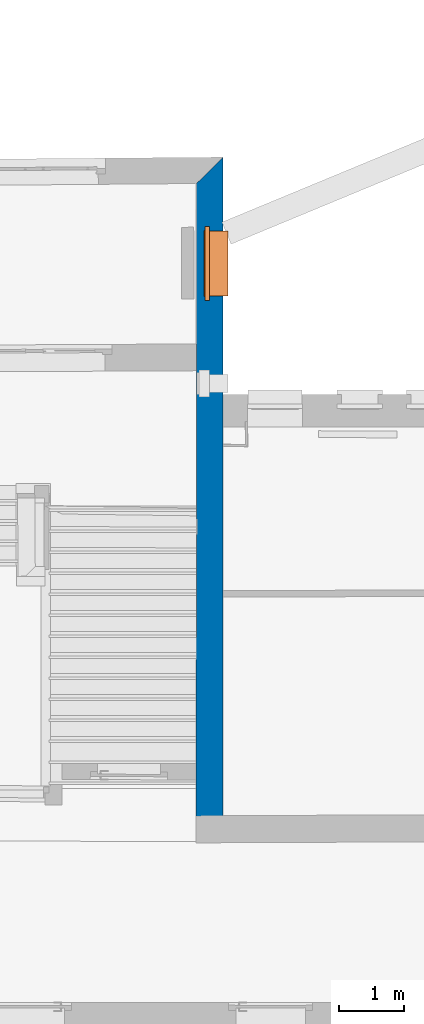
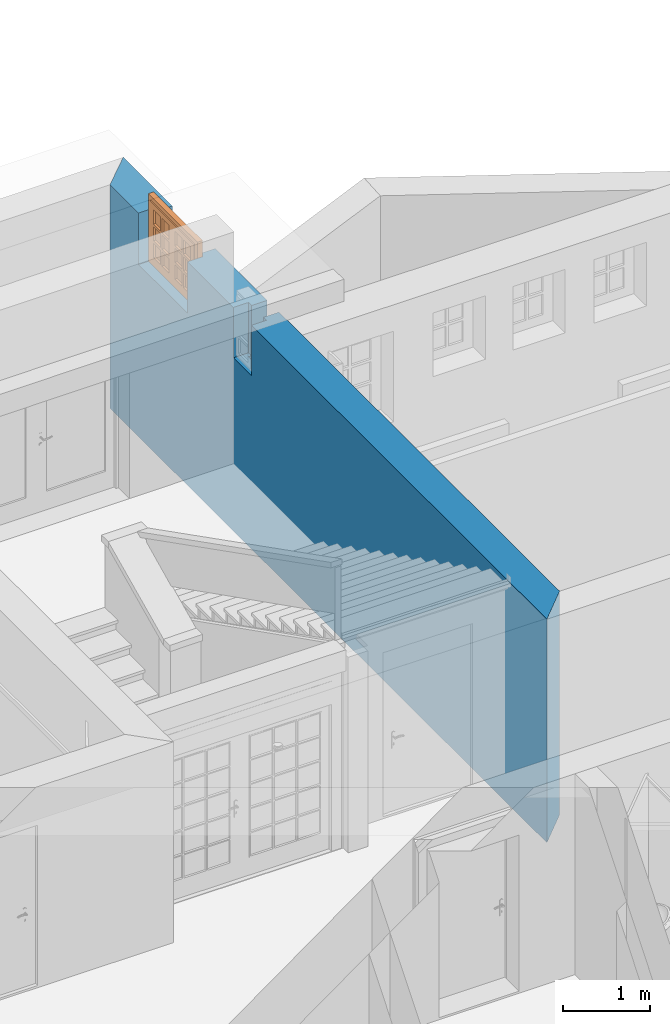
# One storey, part 40 of 196: 1 proxy, 1 wall, 2 openings.
"""IFC2X3 building model written with IfcOpenShell, lengths in metres."""

from ifc_helpers import new_model, entity, si_unit, converted_unit, derived_unit, money_unit, direction, frame, origin_with_axes, origin_2d_with_axis, place, context, subcontext, project, spatial, polyline, rectangle, outline, extrude, faceted_brep, source, transform, mapped, material, layer, layer_set, layer_usage, type_object, element, fill, save


model = new_model("IFC2X3")

# Units and contexts
model_context = context("Model", 3, precision=1e-05, world=origin_with_axes(), true_north=direction((0.0, 1.0)))
body_context = subcontext(model_context, "Body", "Model", "MODEL_VIEW")
ifc_project = project(units=[si_unit("LENGTHUNIT", "METRE"), si_unit("AREAUNIT", "SQUARE_METRE"), si_unit("VOLUMEUNIT", "CUBIC_METRE"), converted_unit("PLANEANGLEUNIT", "DEGREE", entity("IfcPlaneAngleMeasure", 0.0174532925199), si_unit("PLANEANGLEUNIT", "RADIAN"), dimensions=[0, 0, 0, 0, 0, 0, 0]), money_unit("EUR"), converted_unit("TIMEUNIT", "Year", entity("IfcTimeMeasure", 31556926.0), si_unit("TIMEUNIT", "SECOND"), dimensions=[0, 0, 1, 0, 0, 0, 0]), si_unit("MASSUNIT", "GRAM", prefix="KILO"), si_unit("THERMODYNAMICTEMPERATUREUNIT", "DEGREE_CELSIUS"), si_unit("LUMINOUSINTENSITYUNIT", "LUMEN"), si_unit("ENERGYUNIT", "JOULE", prefix="MEGA"), derived_unit("THERMALCONDUCTANCEUNIT", [(si_unit("POWERUNIT", "WATT"), 1), (si_unit("LENGTHUNIT", "METRE"), -1), (si_unit("THERMODYNAMICTEMPERATUREUNIT", "KELVIN"), -1)]), derived_unit("SPECIFICHEATCAPACITYUNIT", [(si_unit("ENERGYUNIT", "JOULE"), 1), (si_unit("MASSUNIT", "GRAM", prefix="KILO"), -1), (si_unit("THERMODYNAMICTEMPERATUREUNIT", "KELVIN"), -1)]), derived_unit("MASSDENSITYUNIT", [(si_unit("MASSUNIT", "GRAM", prefix="KILO"), 1), (si_unit("VOLUMEUNIT", "CUBIC_METRE"), -1)])], contexts=[model_context])

# Site, building, storey
site_placement = place(None, origin_with_axes())
site = spatial("IfcSite", under=ifc_project, at=site_placement, Name="Gelände", CompositionType="ELEMENT")
building_placement = place(site_placement, origin_with_axes())
building = spatial("IfcBuilding", under=site, at=building_placement, Name="Gebäude", CompositionType="ELEMENT")
storey_placement = place(building_placement, frame((0.0, 0.0, -3.0), z_axis=(0.0, 0.0, 1.0), x_axis=(1.0, 0.0, 0.0)))
storey = spatial("IfcBuildingStorey", under=building, at=storey_placement, Name="KELLERGESCHOSS", CompositionType="ELEMENT", Elevation=-3.0)

# Wall, openings, proxy
ifc_material = material(Name="05_ALLGEMEIN - TRAGENDE BAUTEILE")
ifc_layer = layer(ifc_material, 0.41, ventilated="UNKNOWN")
ifc_layer_set = layer_set([ifc_layer], Name="05_ALLGEMEIN - TRAGENDE BAUTEILE 0.41")
ifc_layer_usage = layer_usage(ifc_layer_set, "AXIS2", "NEGATIVE", 0.41)
wall_type = type_object("IfcWallType", Name="05_ALLGEMEIN - TRAGENDE BAUTEILE 410", PredefinedType="ELEMENTEDWALL")
wall_placement = place(storey_placement, frame((-4.46535115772, 19.2470404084, -0.36), z_axis=(0.0, 0.0, 1.0), x_axis=(0.000440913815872, 0.999999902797, 0.0)))
wall = element("IfcWallStandardCase", 1, at=wall_placement, inside=storey, type_object=wall_type, material=ifc_layer_usage, Name="Wand-038", ObjectType="ELEMENTEDWALL", context=body_context, shape_type="SweptSolid", body=[
    extrude(outline(polyline([(0.414620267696, 0.0), (10.4949545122, 0.0), (10.0912333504, 0.41), (-0.00195577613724, 0.41), (0.414620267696, 0.0)])), origin_with_axes(), (0.0, 0.0, 1.0), 3.15),
])
opening_1_placement = place(wall_placement, frame((8.86652682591, 0.0, 2.42470466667), z_axis=(0.0, 0.0, 1.0), x_axis=(1.0, 0.0, 0.0)))
opening_1 = element("IfcOpeningElement", 2, at=opening_1_placement, cuts=wall, Name="Fenster-015", context=body_context, shape_type="SweptSolid", body=[
    extrude(rectangle(XDim=0.991326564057, YDim=0.884032, at=origin_2d_with_axis()), frame((0.0, 0.208421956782, 0.442016), z_axis=(0.0, 1.0, 0.0), x_axis=(1.0, 0.0, 0.0)), (0.0, 0.0, -1.0), 0.618421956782),
    extrude(rectangle(XDim=1.13132656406, YDim=0.954032, at=origin_2d_with_axis()), frame((0.0, 0.208421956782, 0.477016), z_axis=(0.0, -1.0, 0.0), x_axis=(1.0, 0.0, 0.0)), (0.0, 0.0, -1.0), 0.611578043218),
    extrude(rectangle(XDim=0.991326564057, YDim=0.162128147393, at=origin_2d_with_axis()), frame((0.0, 0.249259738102, -0.0810640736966), z_axis=(0.0, 1.0, 0.0), x_axis=(1.0, 0.0, 0.0)), (0.0, 0.0, -1.0), 0.45083778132),
])
opening_2_placement = place(wall_placement, frame((7.03221792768, 0.0, 2.44235066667), z_axis=(0.0, 0.0, 1.0), x_axis=(1.0, 0.0, 0.0)))
element("IfcOpeningElement", 3, at=opening_2_placement, cuts=wall, Name="Fenster-015", context=body_context, shape_type="SweptSolid", body=[
    extrude(rectangle(XDim=0.274211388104, YDim=0.866964, at=origin_2d_with_axis()), frame((0.0, 0.208421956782, 0.433482), z_axis=(0.0, 1.0, 0.0), x_axis=(1.0, 0.0, 0.0)), (0.0, 0.0, -1.0), 0.618421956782),
    extrude(rectangle(XDim=0.414211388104, YDim=0.936964, at=origin_2d_with_axis()), frame((0.0, 0.208421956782, 0.468482), z_axis=(0.0, -1.0, 0.0), x_axis=(1.0, 0.0, 0.0)), (0.0, 0.0, -1.0), 0.611578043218),
    extrude(rectangle(XDim=0.274211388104, YDim=0.162128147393, at=origin_2d_with_axis()), frame((0.0, 0.249259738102, -0.0810640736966), z_axis=(0.0, 1.0, 0.0), x_axis=(1.0, 0.0, 0.0)), (0.0, 0.0, -1.0), 0.45083778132),
])
building_element_proxy_type = type_object("IfcBuildingElementProxyType", Name="2-Flügelfenster 25", PredefinedType="NOTDEFINED")
shared_shape = source(origin_with_axes(), body_context, "Body", "Brep", [
    faceted_brep([(-0.495663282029, -0.05, 0.0), (-0.495663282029, -0.349259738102, -0.0527675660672), (0.495663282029, -0.349259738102, -0.0527675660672), (0.495663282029, -0.05, 0.0), (-0.495663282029, -0.02916221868, -0.118176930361), (-0.495663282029, -0.328421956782, -0.170944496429), (0.495663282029, -0.328421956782, -0.170944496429), (0.495663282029, -0.02916221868, -0.118176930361)], [[[0, 1, 2, 3]], [[0, 4, 5, 1]], [[1, 5, 6, 2]], [[3, 2, 6, 7]], [[4, 0, 3, 7]], [[5, 4, 7, 6]]]),
    faceted_brep([(-0.565663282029, -0.07, 0.0), (-0.565663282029, 0.0, 0.0), (-0.485663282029, 0.0, 0.08), (-0.485663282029, -0.07, 0.08), (-0.565663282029, -0.07, 0.954032), (-0.565663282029, 0.0, 0.954032), (-0.485663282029, 0.0, 0.874032), (-0.485663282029, -0.07, 0.874032)], [[[0, 1, 2, 3]], [[4, 5, 1, 0]], [[1, 5, 6, 2]], [[3, 2, 6, 7]], [[0, 3, 7, 4]], [[7, 6, 5, 4]]]),
    faceted_brep([(0.565663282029, -0.07, 0.0), (0.565663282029, 0.0, 0.0), (0.565663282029, 0.0, 0.954032), (0.565663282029, -0.07, 0.954032), (0.485663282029, -0.07, 0.08), (0.485663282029, 0.0, 0.08), (0.485663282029, 0.0, 0.874032), (0.485663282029, -0.07, 0.874032)], [[[0, 1, 2, 3]], [[4, 5, 1, 0]], [[1, 5, 6, 2]], [[3, 2, 6, 7]], [[0, 3, 7, 4]], [[7, 6, 5, 4]]]),
    faceted_brep([(-0.565663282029, -0.07, 0.0), (-0.565663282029, 0.0, 0.0), (0.565663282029, 0.0, 0.0), (0.565663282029, -0.07, 0.0), (-0.485663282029, -0.07, 0.08), (-0.485663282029, 0.0, 0.08), (0.0, 0.0, 0.08), (0.485663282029, 0.0, 0.08), (0.485663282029, -0.07, 0.08), (0.0, -0.07, 0.08)], [[[0, 1, 2, 3]], [[4, 5, 1, 0]], [[1, 5, 6, 7, 2]], [[3, 2, 7, 8]], [[0, 3, 8, 9, 4]], [[9, 6, 5, 4]], [[8, 7, 6, 9]]]),
    faceted_brep([(-0.565663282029, -0.07, 0.954032), (-0.565663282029, 0.0, 0.954032), (-0.485663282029, 0.0, 0.874032), (-0.485663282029, -0.07, 0.874032), (0.565663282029, -0.07, 0.954032), (0.565663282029, 0.0, 0.954032), (0.485663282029, 0.0, 0.874032), (0.0, 0.0, 0.874032), (0.0, -0.07, 0.874032), (0.485663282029, -0.07, 0.874032)], [[[0, 1, 2, 3]], [[4, 5, 1, 0]], [[1, 5, 6, 7, 2]], [[3, 2, 7, 8]], [[0, 3, 8, 9, 4]], [[9, 6, 5, 4]], [[8, 7, 6, 9]]]),
    faceted_brep([(-0.505663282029, 0.0, 0.06), (-0.505663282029, 0.013, 0.06), (-0.425663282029, 0.013, 0.14), (-0.425663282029, 0.0, 0.14), (-0.505663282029, 0.0, 0.894032), (-0.505663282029, 0.013, 0.894032), (-0.425663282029, 0.013, 0.814032), (-0.425663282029, 0.0, 0.814032)], [[[0, 1, 2, 3]], [[4, 5, 1, 0]], [[1, 5, 6, 2]], [[3, 2, 6, 7]], [[0, 3, 7, 4]], [[7, 6, 5, 4]]]),
    faceted_brep([(-0.01, 0.0, 0.06), (-0.01, 0.013, 0.06), (-0.01, 0.013, 0.894032), (-0.01, 0.0, 0.894032), (-0.07, 0.0, 0.14), (-0.07, 0.013, 0.14), (-0.07, 0.013, 0.814032), (-0.07, 0.0, 0.814032)], [[[0, 1, 2, 3]], [[4, 5, 1, 0]], [[1, 5, 6, 2]], [[3, 2, 6, 7]], [[0, 3, 7, 4]], [[7, 6, 5, 4]]]),
    faceted_brep([(-0.505663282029, 0.0, 0.06), (-0.505663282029, 0.013, 0.06), (-0.01, 0.013, 0.06), (-0.01, 0.0, 0.06), (-0.425663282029, 0.0, 0.14), (-0.425663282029, 0.013, 0.14), (-0.07, 0.013, 0.14), (-0.07, 0.0, 0.14)], [[[0, 1, 2, 3]], [[4, 5, 1, 0]], [[1, 5, 6, 2]], [[3, 2, 6, 7]], [[0, 3, 7, 4]], [[7, 6, 5, 4]]]),
    faceted_brep([(-0.505663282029, 0.0, 0.894032), (-0.505663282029, 0.013, 0.894032), (-0.425663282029, 0.013, 0.814032), (-0.425663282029, 0.0, 0.814032), (-0.01, 0.0, 0.894032), (-0.01, 0.013, 0.894032), (-0.07, 0.013, 0.814032), (-0.07, 0.0, 0.814032)], [[[0, 1, 2, 3]], [[4, 5, 1, 0]], [[1, 5, 6, 2]], [[3, 2, 6, 7]], [[0, 3, 7, 4]], [[7, 6, 5, 4]]]),
    faceted_brep([(-0.485663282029, -0.057, 0.08), (-0.485663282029, 0.0, 0.08), (-0.425663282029, 0.0, 0.14), (-0.425663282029, -0.057, 0.14), (-0.485663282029, -0.057, 0.874032), (-0.485663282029, 0.0, 0.874032), (-0.425663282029, 0.0, 0.814032), (-0.425663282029, -0.057, 0.814032)], [[[0, 1, 2, 3]], [[4, 5, 1, 0]], [[1, 5, 6, 2]], [[3, 2, 6, 7]], [[0, 3, 7, 4]], [[7, 6, 5, 4]]]),
    faceted_brep([(0.01, -0.057, 0.08), (0.01, 0.0, 0.08), (0.01, 0.0, 0.874032), (0.01, -0.057, 0.874032), (-0.07, -0.057, 0.14), (-0.07, 0.0, 0.14), (-0.07, 0.0, 0.814032), (-0.07, -0.057, 0.814032)], [[[0, 1, 2, 3]], [[4, 5, 1, 0]], [[1, 5, 6, 2]], [[3, 2, 6, 7]], [[0, 3, 7, 4]], [[7, 6, 5, 4]]]),
    faceted_brep([(-0.485663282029, -0.057, 0.08), (-0.485663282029, 0.0, 0.08), (0.01, 0.0, 0.08), (0.01, -0.057, 0.08), (-0.425663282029, -0.057, 0.14), (-0.425663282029, 0.0, 0.14), (-0.07, 0.0, 0.14), (-0.07, -0.057, 0.14)], [[[0, 1, 2, 3]], [[4, 5, 1, 0]], [[1, 5, 6, 2]], [[3, 2, 6, 7]], [[0, 3, 7, 4]], [[7, 6, 5, 4]]]),
    faceted_brep([(-0.485663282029, -0.057, 0.874032), (-0.485663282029, 0.0, 0.874032), (-0.425663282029, 0.0, 0.814032), (-0.425663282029, -0.057, 0.814032), (0.01, -0.057, 0.874032), (0.01, 0.0, 0.874032), (-0.07, 0.0, 0.814032), (-0.07, -0.057, 0.814032)], [[[0, 1, 2, 3]], [[4, 5, 1, 0]], [[1, 5, 6, 2]], [[3, 2, 6, 7]], [[0, 3, 7, 4]], [[7, 6, 5, 4]]]),
    faceted_brep([(-0.265331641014, -0.057, 0.14), (-0.265331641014, -0.022, 0.14), (-0.230331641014, -0.022, 0.14), (-0.230331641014, -0.057, 0.14), (-0.265331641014, -0.057, 0.814032), (-0.265331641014, -0.022, 0.814032), (-0.230331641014, -0.022, 0.814032), (-0.230331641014, -0.057, 0.814032)], [[[0, 1, 2, 3]], [[4, 5, 1, 0]], [[1, 5, 6, 2]], [[3, 2, 6, 7]], [[0, 3, 7, 4]], [[7, 6, 5, 4]]]),
    faceted_brep([(-0.265331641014, -0.022, 0.14), (-0.265331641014, 0.013, 0.14), (-0.230331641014, 0.013, 0.14), (-0.230331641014, -0.022, 0.14), (-0.265331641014, -0.022, 0.814032), (-0.265331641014, 0.013, 0.814032), (-0.230331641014, 0.013, 0.814032), (-0.230331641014, -0.022, 0.814032)], [[[0, 1, 2, 3]], [[4, 5, 1, 0]], [[1, 5, 6, 2]], [[3, 2, 6, 7]], [[0, 3, 7, 4]], [[7, 6, 5, 4]]]),
    faceted_brep([(-0.265331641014, -0.057, 0.341344), (-0.265331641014, -0.057, 0.376344), (-0.425663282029, -0.057, 0.376344), (-0.425663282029, -0.057, 0.341344), (-0.265331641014, -0.022, 0.376344), (-0.265331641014, -0.022, 0.341344), (-0.425663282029, -0.022, 0.376344), (-0.425663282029, -0.022, 0.341344)], [[[0, 1, 2, 3]], [[4, 1, 0, 5]], [[1, 4, 6, 2]], [[6, 7, 3, 2]], [[5, 0, 3, 7]], [[4, 5, 7, 6]]]),
    faceted_brep([(-0.230331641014, -0.022, 0.376344), (-0.230331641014, -0.057, 0.376344), (-0.07, -0.057, 0.376344), (-0.07, -0.022, 0.376344), (-0.230331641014, -0.057, 0.341344), (-0.230331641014, -0.022, 0.341344), (-0.07, -0.057, 0.341344), (-0.07, -0.022, 0.341344)], [[[0, 1, 2, 3]], [[4, 1, 0, 5]], [[1, 4, 6, 2]], [[7, 3, 2, 6]], [[5, 0, 3, 7]], [[4, 5, 7, 6]]]),
    faceted_brep([(-0.265331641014, -0.022, 0.341344), (-0.265331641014, -0.022, 0.376344), (-0.425663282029, -0.022, 0.376344), (-0.425663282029, -0.022, 0.341344), (-0.265331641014, 0.013, 0.376344), (-0.265331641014, 0.013, 0.341344), (-0.425663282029, 0.013, 0.376344), (-0.425663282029, 0.013, 0.341344)], [[[0, 1, 2, 3]], [[4, 1, 0, 5]], [[1, 4, 6, 2]], [[6, 7, 3, 2]], [[5, 0, 3, 7]], [[4, 5, 7, 6]]]),
    faceted_brep([(-0.230331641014, 0.013, 0.376344), (-0.230331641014, -0.022, 0.376344), (-0.07, -0.022, 0.376344), (-0.07, 0.013, 0.376344), (-0.230331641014, -0.022, 0.341344), (-0.230331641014, 0.013, 0.341344), (-0.07, -0.022, 0.341344), (-0.07, 0.013, 0.341344)], [[[0, 1, 2, 3]], [[4, 1, 0, 5]], [[1, 4, 6, 2]], [[7, 3, 2, 6]], [[5, 0, 3, 7]], [[4, 5, 7, 6]]]),
    faceted_brep([(-0.265331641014, -0.057, 0.577688), (-0.265331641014, -0.057, 0.612688), (-0.425663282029, -0.057, 0.612688), (-0.425663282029, -0.057, 0.577688), (-0.265331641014, -0.022, 0.612688), (-0.265331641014, -0.022, 0.577688), (-0.425663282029, -0.022, 0.612688), (-0.425663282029, -0.022, 0.577688)], [[[0, 1, 2, 3]], [[4, 1, 0, 5]], [[1, 4, 6, 2]], [[6, 7, 3, 2]], [[5, 0, 3, 7]], [[4, 5, 7, 6]]]),
    faceted_brep([(-0.230331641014, -0.022, 0.612688), (-0.230331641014, -0.057, 0.612688), (-0.07, -0.057, 0.612688), (-0.07, -0.022, 0.612688), (-0.230331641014, -0.057, 0.577688), (-0.230331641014, -0.022, 0.577688), (-0.07, -0.057, 0.577688), (-0.07, -0.022, 0.577688)], [[[0, 1, 2, 3]], [[4, 1, 0, 5]], [[1, 4, 6, 2]], [[7, 3, 2, 6]], [[5, 0, 3, 7]], [[4, 5, 7, 6]]]),
    faceted_brep([(-0.265331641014, -0.022, 0.577688), (-0.265331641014, -0.022, 0.612688), (-0.425663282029, -0.022, 0.612688), (-0.425663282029, -0.022, 0.577688), (-0.265331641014, 0.013, 0.612688), (-0.265331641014, 0.013, 0.577688), (-0.425663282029, 0.013, 0.612688), (-0.425663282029, 0.013, 0.577688)], [[[0, 1, 2, 3]], [[4, 1, 0, 5]], [[1, 4, 6, 2]], [[6, 7, 3, 2]], [[5, 0, 3, 7]], [[4, 5, 7, 6]]]),
    faceted_brep([(-0.230331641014, 0.013, 0.612688), (-0.230331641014, -0.022, 0.612688), (-0.07, -0.022, 0.612688), (-0.07, 0.013, 0.612688), (-0.230331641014, -0.022, 0.577688), (-0.230331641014, 0.013, 0.577688), (-0.07, -0.022, 0.577688), (-0.07, 0.013, 0.577688)], [[[0, 1, 2, 3]], [[4, 1, 0, 5]], [[1, 4, 6, 2]], [[7, 3, 2, 6]], [[5, 0, 3, 7]], [[4, 5, 7, 6]]]),
    faceted_brep([(-0.265331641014, -0.017, 0.577688), (-0.265331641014, -0.027, 0.577688), (-0.265331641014, -0.027, 0.376344), (-0.265331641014, -0.017, 0.376344), (-0.425663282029, -0.027, 0.577688), (-0.425663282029, -0.017, 0.577688), (-0.425663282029, -0.027, 0.376344), (-0.425663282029, -0.017, 0.376344)], [[[0, 1, 2, 3]], [[4, 1, 0, 5]], [[1, 4, 6, 2]], [[2, 6, 7, 3]], [[5, 0, 3, 7]], [[4, 5, 7, 6]]]),
    faceted_brep([(-0.07, -0.027, 0.14), (-0.07, -0.017, 0.14), (-0.07, -0.017, 0.341344), (-0.07, -0.027, 0.341344), (-0.230331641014, -0.027, 0.14), (-0.230331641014, -0.017, 0.14), (-0.230331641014, -0.017, 0.341344), (-0.230331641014, -0.027, 0.341344)], [[[0, 1, 2, 3]], [[0, 4, 5, 1]], [[1, 5, 6, 2]], [[2, 6, 7, 3]], [[4, 0, 3, 7]], [[5, 4, 7, 6]]]),
    faceted_brep([(-0.265331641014, -0.027, 0.14), (-0.265331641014, -0.017, 0.14), (-0.265331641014, -0.017, 0.341344), (-0.265331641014, -0.027, 0.341344), (-0.425663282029, -0.017, 0.14), (-0.425663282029, -0.027, 0.14), (-0.425663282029, -0.017, 0.341344), (-0.425663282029, -0.027, 0.341344)], [[[0, 1, 2, 3]], [[4, 1, 0, 5]], [[1, 4, 6, 2]], [[2, 6, 7, 3]], [[5, 0, 3, 7]], [[4, 5, 7, 6]]]),
    faceted_brep([(-0.07, -0.017, 0.577688), (-0.07, -0.027, 0.577688), (-0.07, -0.027, 0.376344), (-0.07, -0.017, 0.376344), (-0.230331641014, -0.027, 0.577688), (-0.230331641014, -0.017, 0.577688), (-0.230331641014, -0.027, 0.376344), (-0.230331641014, -0.017, 0.376344)], [[[0, 1, 2, 3]], [[4, 1, 0, 5]], [[1, 4, 6, 2]], [[2, 6, 7, 3]], [[5, 0, 3, 7]], [[4, 5, 7, 6]]]),
    faceted_brep([(-0.425663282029, -0.027, 0.612688), (-0.265331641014, -0.027, 0.612688), (-0.265331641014, -0.027, 0.814032), (-0.425663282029, -0.027, 0.814032), (-0.265331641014, -0.017, 0.612688), (-0.425663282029, -0.017, 0.612688), (-0.265331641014, -0.017, 0.814032), (-0.425663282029, -0.017, 0.814032)], [[[0, 1, 2, 3]], [[4, 1, 0, 5]], [[1, 4, 6, 2]], [[7, 3, 2, 6]], [[5, 0, 3, 7]], [[4, 5, 7, 6]]]),
    faceted_brep([(-0.230331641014, -0.027, 0.612688), (-0.07, -0.027, 0.612688), (-0.07, -0.027, 0.814032), (-0.230331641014, -0.027, 0.814032), (-0.07, -0.017, 0.612688), (-0.230331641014, -0.017, 0.612688), (-0.07, -0.017, 0.814032), (-0.230331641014, -0.017, 0.814032)], [[[0, 1, 2, 3]], [[4, 1, 0, 5]], [[1, 4, 6, 2]], [[2, 6, 7, 3]], [[5, 0, 3, 7]], [[4, 5, 7, 6]]]),
    faceted_brep([(-0.01, 0.0, 0.06), (-0.01, 0.013, 0.06), (0.07, 0.013, 0.14), (0.07, 0.0, 0.14), (-0.01, 0.0, 0.894032), (-0.01, 0.013, 0.894032), (0.07, 0.013, 0.814032), (0.07, 0.0, 0.814032)], [[[0, 1, 2, 3]], [[4, 5, 1, 0]], [[1, 5, 6, 2]], [[3, 2, 6, 7]], [[0, 3, 7, 4]], [[7, 6, 5, 4]]]),
    faceted_brep([(0.505663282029, 0.0, 0.06), (0.425663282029, 0.0, 0.14), (0.425663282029, 0.013, 0.14), (0.505663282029, 0.013, 0.06), (0.505663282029, 0.0, 0.894032), (0.425663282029, 0.0, 0.814032), (0.425663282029, 0.013, 0.814032), (0.505663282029, 0.013, 0.894032)], [[[0, 1, 2, 3]], [[0, 4, 5, 1]], [[1, 5, 6, 2]], [[3, 2, 6, 7]], [[4, 0, 3, 7]], [[5, 4, 7, 6]]]),
    faceted_brep([(-0.01, 0.0, 0.06), (-0.01, 0.013, 0.06), (0.505663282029, 0.013, 0.06), (0.505663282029, 0.0, 0.06), (0.07, 0.0, 0.14), (0.07, 0.013, 0.14), (0.425663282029, 0.013, 0.14), (0.425663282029, 0.0, 0.14)], [[[0, 1, 2, 3]], [[4, 5, 1, 0]], [[1, 5, 6, 2]], [[3, 2, 6, 7]], [[0, 3, 7, 4]], [[7, 6, 5, 4]]]),
    faceted_brep([(-0.01, 0.0, 0.894032), (0.505663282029, 0.0, 0.894032), (0.505663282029, 0.013, 0.894032), (-0.01, 0.013, 0.894032), (0.07, 0.0, 0.814032), (0.425663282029, 0.0, 0.814032), (0.425663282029, 0.013, 0.814032), (0.07, 0.013, 0.814032)], [[[0, 1, 2, 3]], [[0, 4, 5, 1]], [[1, 5, 6, 2]], [[3, 2, 6, 7]], [[4, 0, 3, 7]], [[5, 4, 7, 6]]]),
    faceted_brep([(0.01, -0.057, 0.08), (0.01, 0.0, 0.08), (0.07, 0.0, 0.14), (0.07, -0.057, 0.14), (0.01, -0.057, 0.874032), (0.01, 0.0, 0.874032), (0.07, 0.0, 0.814032), (0.07, -0.057, 0.814032)], [[[0, 1, 2, 3]], [[4, 5, 1, 0]], [[1, 5, 6, 2]], [[3, 2, 6, 7]], [[0, 3, 7, 4]], [[7, 6, 5, 4]]]),
    faceted_brep([(0.485663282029, -0.057, 0.08), (0.425663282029, -0.057, 0.14), (0.425663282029, 0.0, 0.14), (0.485663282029, 0.0, 0.08), (0.485663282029, -0.057, 0.874032), (0.425663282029, -0.057, 0.814032), (0.425663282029, 0.0, 0.814032), (0.485663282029, 0.0, 0.874032)], [[[0, 1, 2, 3]], [[0, 4, 5, 1]], [[1, 5, 6, 2]], [[3, 2, 6, 7]], [[4, 0, 3, 7]], [[5, 4, 7, 6]]]),
    faceted_brep([(0.01, -0.057, 0.08), (0.01, 0.0, 0.08), (0.485663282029, 0.0, 0.08), (0.485663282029, -0.057, 0.08), (0.07, -0.057, 0.14), (0.07, 0.0, 0.14), (0.425663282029, 0.0, 0.14), (0.425663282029, -0.057, 0.14)], [[[0, 1, 2, 3]], [[4, 5, 1, 0]], [[1, 5, 6, 2]], [[3, 2, 6, 7]], [[0, 3, 7, 4]], [[7, 6, 5, 4]]]),
    faceted_brep([(0.01, -0.057, 0.874032), (0.485663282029, -0.057, 0.874032), (0.485663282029, 0.0, 0.874032), (0.01, 0.0, 0.874032), (0.07, -0.057, 0.814032), (0.425663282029, -0.057, 0.814032), (0.425663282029, 0.0, 0.814032), (0.07, 0.0, 0.814032)], [[[0, 1, 2, 3]], [[0, 4, 5, 1]], [[1, 5, 6, 2]], [[3, 2, 6, 7]], [[4, 0, 3, 7]], [[5, 4, 7, 6]]]),
    faceted_brep([(0.230331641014, -0.057, 0.14), (0.230331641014, -0.022, 0.14), (0.265331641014, -0.022, 0.14), (0.265331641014, -0.057, 0.14), (0.230331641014, -0.057, 0.814032), (0.230331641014, -0.022, 0.814032), (0.265331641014, -0.022, 0.814032), (0.265331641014, -0.057, 0.814032)], [[[0, 1, 2, 3]], [[4, 5, 1, 0]], [[1, 5, 6, 2]], [[3, 2, 6, 7]], [[0, 3, 7, 4]], [[7, 6, 5, 4]]]),
    faceted_brep([(0.230331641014, -0.022, 0.14), (0.230331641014, 0.013, 0.14), (0.265331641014, 0.013, 0.14), (0.265331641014, -0.022, 0.14), (0.230331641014, -0.022, 0.814032), (0.230331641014, 0.013, 0.814032), (0.265331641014, 0.013, 0.814032), (0.265331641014, -0.022, 0.814032)], [[[0, 1, 2, 3]], [[4, 5, 1, 0]], [[1, 5, 6, 2]], [[3, 2, 6, 7]], [[0, 3, 7, 4]], [[7, 6, 5, 4]]]),
    faceted_brep([(0.230331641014, -0.057, 0.341344), (0.230331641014, -0.057, 0.376344), (0.07, -0.057, 0.376344), (0.07, -0.057, 0.341344), (0.230331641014, -0.022, 0.376344), (0.230331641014, -0.022, 0.341344), (0.07, -0.022, 0.376344), (0.07, -0.022, 0.341344)], [[[0, 1, 2, 3]], [[4, 1, 0, 5]], [[1, 4, 6, 2]], [[6, 7, 3, 2]], [[5, 0, 3, 7]], [[4, 5, 7, 6]]]),
    faceted_brep([(0.265331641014, -0.022, 0.376344), (0.265331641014, -0.057, 0.376344), (0.425663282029, -0.057, 0.376344), (0.425663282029, -0.022, 0.376344), (0.265331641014, -0.057, 0.341344), (0.265331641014, -0.022, 0.341344), (0.425663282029, -0.057, 0.341344), (0.425663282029, -0.022, 0.341344)], [[[0, 1, 2, 3]], [[4, 1, 0, 5]], [[1, 4, 6, 2]], [[7, 3, 2, 6]], [[5, 0, 3, 7]], [[4, 5, 7, 6]]]),
    faceted_brep([(0.230331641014, -0.022, 0.341344), (0.230331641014, -0.022, 0.376344), (0.07, -0.022, 0.376344), (0.07, -0.022, 0.341344), (0.230331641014, 0.013, 0.376344), (0.230331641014, 0.013, 0.341344), (0.07, 0.013, 0.376344), (0.07, 0.013, 0.341344)], [[[0, 1, 2, 3]], [[4, 1, 0, 5]], [[1, 4, 6, 2]], [[6, 7, 3, 2]], [[5, 0, 3, 7]], [[4, 5, 7, 6]]]),
    faceted_brep([(0.265331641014, 0.013, 0.376344), (0.265331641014, -0.022, 0.376344), (0.425663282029, -0.022, 0.376344), (0.425663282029, 0.013, 0.376344), (0.265331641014, -0.022, 0.341344), (0.265331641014, 0.013, 0.341344), (0.425663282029, -0.022, 0.341344), (0.425663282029, 0.013, 0.341344)], [[[0, 1, 2, 3]], [[4, 1, 0, 5]], [[1, 4, 6, 2]], [[7, 3, 2, 6]], [[5, 0, 3, 7]], [[4, 5, 7, 6]]]),
    faceted_brep([(0.230331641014, -0.057, 0.577688), (0.230331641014, -0.057, 0.612688), (0.07, -0.057, 0.612688), (0.07, -0.057, 0.577688), (0.230331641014, -0.022, 0.612688), (0.230331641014, -0.022, 0.577688), (0.07, -0.022, 0.612688), (0.07, -0.022, 0.577688)], [[[0, 1, 2, 3]], [[4, 1, 0, 5]], [[1, 4, 6, 2]], [[6, 7, 3, 2]], [[5, 0, 3, 7]], [[4, 5, 7, 6]]]),
    faceted_brep([(0.265331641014, -0.022, 0.612688), (0.265331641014, -0.057, 0.612688), (0.425663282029, -0.057, 0.612688), (0.425663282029, -0.022, 0.612688), (0.265331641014, -0.057, 0.577688), (0.265331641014, -0.022, 0.577688), (0.425663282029, -0.057, 0.577688), (0.425663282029, -0.022, 0.577688)], [[[0, 1, 2, 3]], [[4, 1, 0, 5]], [[1, 4, 6, 2]], [[7, 3, 2, 6]], [[5, 0, 3, 7]], [[4, 5, 7, 6]]]),
    faceted_brep([(0.230331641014, -0.022, 0.577688), (0.230331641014, -0.022, 0.612688), (0.07, -0.022, 0.612688), (0.07, -0.022, 0.577688), (0.230331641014, 0.013, 0.612688), (0.230331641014, 0.013, 0.577688), (0.07, 0.013, 0.612688), (0.07, 0.013, 0.577688)], [[[0, 1, 2, 3]], [[4, 1, 0, 5]], [[1, 4, 6, 2]], [[6, 7, 3, 2]], [[5, 0, 3, 7]], [[4, 5, 7, 6]]]),
    faceted_brep([(0.265331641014, 0.013, 0.612688), (0.265331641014, -0.022, 0.612688), (0.425663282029, -0.022, 0.612688), (0.425663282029, 0.013, 0.612688), (0.265331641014, -0.022, 0.577688), (0.265331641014, 0.013, 0.577688), (0.425663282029, -0.022, 0.577688), (0.425663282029, 0.013, 0.577688)], [[[0, 1, 2, 3]], [[4, 1, 0, 5]], [[1, 4, 6, 2]], [[7, 3, 2, 6]], [[5, 0, 3, 7]], [[4, 5, 7, 6]]]),
    faceted_brep([(0.230331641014, -0.017, 0.577688), (0.230331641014, -0.027, 0.577688), (0.230331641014, -0.027, 0.376344), (0.230331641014, -0.017, 0.376344), (0.07, -0.027, 0.577688), (0.07, -0.017, 0.577688), (0.07, -0.027, 0.376344), (0.07, -0.017, 0.376344)], [[[0, 1, 2, 3]], [[4, 1, 0, 5]], [[1, 4, 6, 2]], [[2, 6, 7, 3]], [[5, 0, 3, 7]], [[4, 5, 7, 6]]]),
    faceted_brep([(0.425663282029, -0.027, 0.14), (0.425663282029, -0.017, 0.14), (0.425663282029, -0.017, 0.341344), (0.425663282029, -0.027, 0.341344), (0.265331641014, -0.027, 0.14), (0.265331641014, -0.017, 0.14), (0.265331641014, -0.017, 0.341344), (0.265331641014, -0.027, 0.341344)], [[[0, 1, 2, 3]], [[0, 4, 5, 1]], [[1, 5, 6, 2]], [[2, 6, 7, 3]], [[4, 0, 3, 7]], [[5, 4, 7, 6]]]),
    faceted_brep([(0.230331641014, -0.027, 0.14), (0.230331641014, -0.017, 0.14), (0.230331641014, -0.017, 0.341344), (0.230331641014, -0.027, 0.341344), (0.07, -0.017, 0.14), (0.07, -0.027, 0.14), (0.07, -0.017, 0.341344), (0.07, -0.027, 0.341344)], [[[0, 1, 2, 3]], [[4, 1, 0, 5]], [[1, 4, 6, 2]], [[2, 6, 7, 3]], [[5, 0, 3, 7]], [[4, 5, 7, 6]]]),
    faceted_brep([(0.425663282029, -0.017, 0.577688), (0.425663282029, -0.027, 0.577688), (0.425663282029, -0.027, 0.376344), (0.425663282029, -0.017, 0.376344), (0.265331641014, -0.027, 0.577688), (0.265331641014, -0.017, 0.577688), (0.265331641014, -0.027, 0.376344), (0.265331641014, -0.017, 0.376344)], [[[0, 1, 2, 3]], [[4, 1, 0, 5]], [[1, 4, 6, 2]], [[2, 6, 7, 3]], [[5, 0, 3, 7]], [[4, 5, 7, 6]]]),
    faceted_brep([(0.07, -0.027, 0.612688), (0.230331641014, -0.027, 0.612688), (0.230331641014, -0.027, 0.814032), (0.07, -0.027, 0.814032), (0.230331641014, -0.017, 0.612688), (0.07, -0.017, 0.612688), (0.230331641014, -0.017, 0.814032), (0.07, -0.017, 0.814032)], [[[0, 1, 2, 3]], [[4, 1, 0, 5]], [[1, 4, 6, 2]], [[7, 3, 2, 6]], [[5, 0, 3, 7]], [[4, 5, 7, 6]]]),
    faceted_brep([(0.265331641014, -0.027, 0.612688), (0.425663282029, -0.027, 0.612688), (0.425663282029, -0.027, 0.814032), (0.265331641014, -0.027, 0.814032), (0.425663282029, -0.017, 0.612688), (0.265331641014, -0.017, 0.612688), (0.425663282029, -0.017, 0.814032), (0.265331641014, -0.017, 0.814032)], [[[0, 1, 2, 3]], [[4, 1, 0, 5]], [[1, 4, 6, 2]], [[2, 6, 7, 3]], [[5, 0, 3, 7]], [[4, 5, 7, 6]]]),
])
proxy_placement = place(opening_1_placement, frame((-0.565663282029, 0.0, 0.0), z_axis=(0.0, 0.0, 1.0), x_axis=(1.0, 0.0, 0.0)))
proxy = element("IfcBuildingElementProxy", 4, at=proxy_placement, inside=storey, type_object=building_element_proxy_type, Name="Fenster-015", context=body_context, shape_type="MappedRepresentation", body=[
    mapped(shared_shape, transform((0.565663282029, 0.278421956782, 0.0))),
])
fill(opening_1, proxy)

save(model, "model.ifc")
